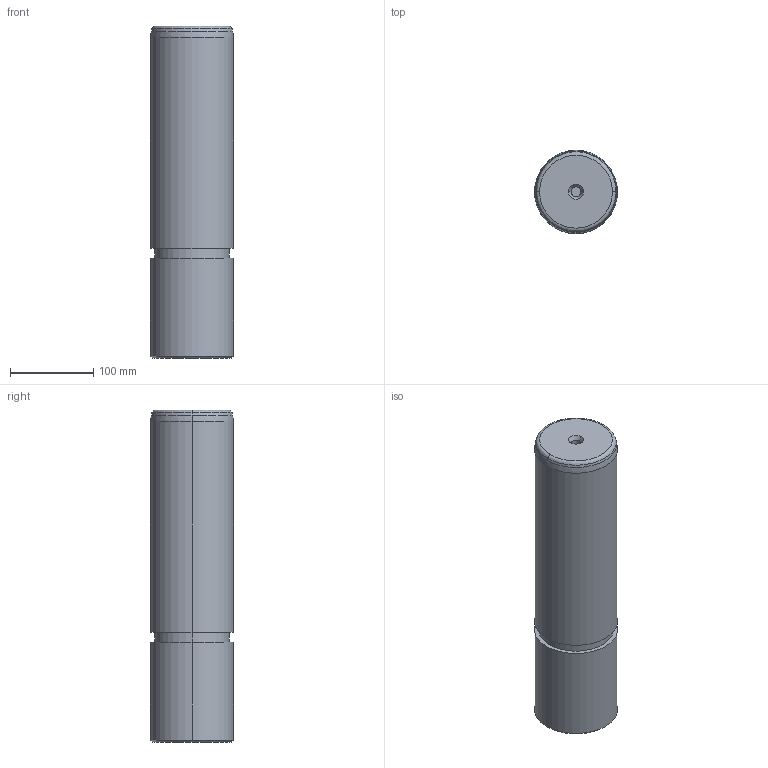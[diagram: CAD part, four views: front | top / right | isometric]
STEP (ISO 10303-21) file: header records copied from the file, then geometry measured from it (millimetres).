
FILE_DESCRIPTION((''),'2;1');
FILE_NAME('','2010-09-08T13:05:42+09:00',('misumi'),(''),'M/STEP i/f 1R2-14','CADmeister v5.1','');
FILE_SCHEMA(('AUTOMOTIVE_DESIGN'));
Length unit declared in the file: millimetre
Products named in the file (1): GPOB100-400
Bounding box: 100 x 100 x 400 mm (x, y, z)
Volume: 3113725.1 mm3; surface area: 143756.7 mm2
Topology: 1 solids, 1 shells, 23 faces, 44 edges, 26 vertices
Faces by surface type: cylinder 8, cone 6, plane 5, revolution 4
Entity records: 690 total; most frequent: DIRECTION 122, CARTESIAN_POINT 104, ORIENTED_EDGE 88, AXIS2_PLACEMENT_3D 52, EDGE_CURVE 44, CIRCLE 32, VERTEX_POINT 26, EDGE_LOOP 26
